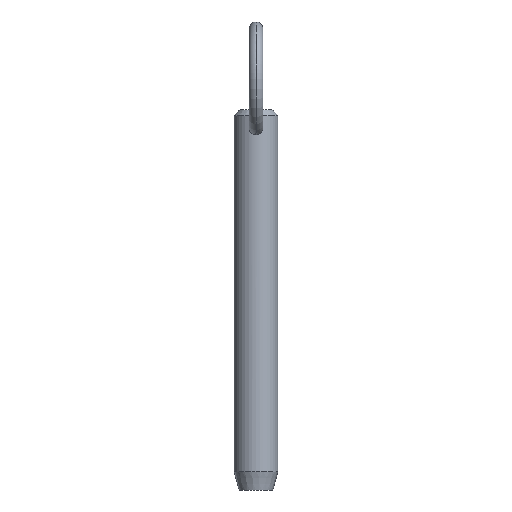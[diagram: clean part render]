
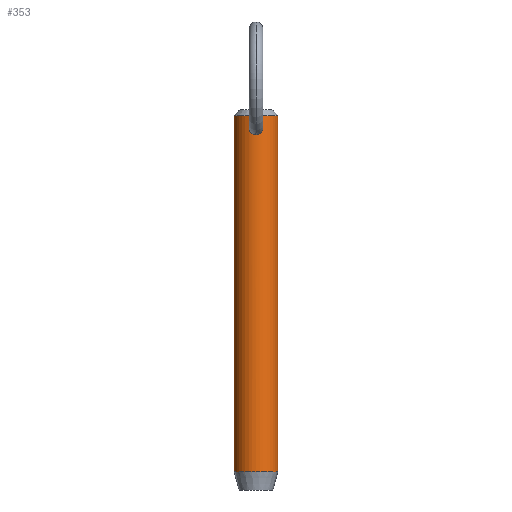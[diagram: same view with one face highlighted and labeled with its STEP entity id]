
A CAD part, front view. The second image highlights one B-rep face of the part: STEP entity #353.
In plain terms, the highlighted cylindrical face has radius 4.76 mm (diameter 9.52 mm), a partial arc.
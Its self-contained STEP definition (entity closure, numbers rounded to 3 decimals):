
#1 = CARTESIAN_POINT ( 'NONE',  ( -0.932, -4.67, 67.345 ) ) ;
#2 = CARTESIAN_POINT ( 'NONE',  ( 0.687, -4.711, 67.535 ) ) ;
#3 = VERTEX_POINT ( 'NONE', #481 ) ;
#5 = CARTESIAN_POINT ( 'NONE',  ( 1.404, -4.548, 66.553 ) ) ;
#16 = CARTESIAN_POINT ( 'NONE',  ( 4.76, 0., 63.5 ) ) ;
#20 = DIRECTION ( 'NONE',  ( 0., 0., -1. ) ) ;
#22 = VERTEX_POINT ( 'NONE', #41 ) ;
#26 = DIRECTION ( 'NONE',  ( 1., 0., 0. ) ) ;
#32 = DIRECTION ( 'NONE',  ( 0., 0., 1. ) ) ;
#35 = CARTESIAN_POINT ( 'NONE',  ( -0.416, -4.746, 64.467 ) ) ;
#40 = CARTESIAN_POINT ( 'NONE',  ( -0.703, -4.709, 64.589 ) ) ;
#41 = CARTESIAN_POINT ( 'NONE',  ( -4.76, 0., 68.55 ) ) ;
#46 = CARTESIAN_POINT ( 'NONE',  ( 0.506, -4.734, 67.637 ) ) ;
#53 = CARTESIAN_POINT ( 'NONE',  ( 0., -4.76, 67.748 ) ) ;
#54 = EDGE_LOOP ( 'NONE', ( #378, #112, #415, #406 ) ) ;
#55 = EDGE_CURVE ( 'NONE', #22, #3, #128, .T. ) ;
#59 = FACE_OUTER_BOUND ( 'NONE', #54, .T. ) ;
#60 = CARTESIAN_POINT ( 'NONE',  ( 0., 0., 63.5 ) ) ;
#65 = CARTESIAN_POINT ( 'NONE',  ( 4.76, 0., 68.55 ) ) ;
#81 = CARTESIAN_POINT ( 'NONE',  ( 0., -4.76, 64.426 ) ) ;
#85 = CARTESIAN_POINT ( 'NONE',  ( -0.21, -4.76, 64.426 ) ) ;
#89 = CARTESIAN_POINT ( 'NONE',  ( -0.103, -4.76, 67.748 ) ) ;
#92 = EDGE_LOOP ( 'NONE', ( #178, #197 ) ) ;
#95 = CARTESIAN_POINT ( 'NONE',  ( 1.45, -4.534, 65.528 ) ) ;
#96 = FACE_BOUND ( 'NONE', #92, .T. ) ;
#106 = CARTESIAN_POINT ( 'NONE',  ( -1.483, -4.524, 65.626 ) ) ;
#109 = AXIS2_PLACEMENT_3D ( 'NONE', #113, #32, #230 ) ;
#112 = ORIENTED_EDGE ( 'NONE', *, *, #485, .T. ) ;
#113 = CARTESIAN_POINT ( 'NONE',  ( 0., 0., -8.7 ) ) ;
#118 = CARTESIAN_POINT ( 'NONE',  ( -1.039, -4.646, 64.826 ) ) ;
#120 = CARTESIAN_POINT ( 'NONE',  ( 0., -4.76, 67.748 ) ) ;
#123 = CARTESIAN_POINT ( 'NONE',  ( 1.473, -4.526, 65.631 ) ) ;
#126 = CARTESIAN_POINT ( 'NONE',  ( 1.178, -4.613, 64.976 ) ) ;
#128 = LINE ( 'NONE', #484, #463 ) ;
#131 = EDGE_CURVE ( 'NONE', #373, #171, #195, .T. ) ;
#138 = CARTESIAN_POINT ( 'NONE',  ( 0.105, -4.76, 64.426 ) ) ;
#152 = CARTESIAN_POINT ( 'NONE',  ( -1.487, -4.522, 66.253 ) ) ;
#155 = CARTESIAN_POINT ( 'NONE',  ( -1.292, -4.582, 66.845 ) ) ;
#156 = CARTESIAN_POINT ( 'NONE',  ( 0.409, -4.743, 67.678 ) ) ;
#161 = CARTESIAN_POINT ( 'NONE',  ( 1.503, -4.517, 65.94 ) ) ;
#166 = CARTESIAN_POINT ( 'NONE',  ( 0.997, -4.655, 67.264 ) ) ;
#167 = CARTESIAN_POINT ( 'NONE',  ( 1.344, -4.567, 65.239 ) ) ;
#171 = VERTEX_POINT ( 'NONE', #81 ) ;
#178 = ORIENTED_EDGE ( 'NONE', *, *, #131, .T. ) ;
#184 = DIRECTION ( 'NONE',  ( -1., 0., 0. ) ) ;
#187 = DIRECTION ( 'NONE',  ( 0., 0., -1. ) ) ;
#188 = CARTESIAN_POINT ( 'NONE',  ( -0.961, -4.663, 64.757 ) ) ;
#194 = AXIS2_PLACEMENT_3D ( 'NONE', #60, #302, #184 ) ;
#195 = B_SPLINE_CURVE_WITH_KNOTS ( 'NONE', 3,
 ( #240, #319, #359, #156, #46, #2, #322, #248, #166, #450, #446, #5, #402, #290, #291, #161, #495, #123, #95, #204, #167, #363, #126, #340, #459, #221, #412, #505, #138, #464 ),
 .UNSPECIFIED., .F., .F.,
 ( 4, 2, 2, 2, 2, 2, 2, 2, 2, 2, 2, 2, 2, 2, 4 ),
 ( 0.004, 0.005, 0.005, 0.005, 0.006, 0.006, 0.007, 0.007, 0.007, 0.007, 0.008, 0.008, 0.009, 0.009, 0.009 ),
 .UNSPECIFIED. ) ;
#197 = ORIENTED_EDGE ( 'NONE', *, *, #209, .T. ) ;
#204 = CARTESIAN_POINT ( 'NONE',  ( 1.385, -4.554, 65.332 ) ) ;
#209 = EDGE_CURVE ( 'NONE', #171, #373, #424, .T. ) ;
#221 = CARTESIAN_POINT ( 'NONE',  ( 0.512, -4.733, 64.508 ) ) ;
#230 = DIRECTION ( 'NONE',  ( -1., 0., 0. ) ) ;
#234 = CIRCLE ( 'NONE', #380, 4.76 ) ;
#240 = CARTESIAN_POINT ( 'NONE',  ( 0., -4.76, 67.748 ) ) ;
#245 = CARTESIAN_POINT ( 'NONE',  ( -1.441, -4.537, 66.457 ) ) ;
#248 = CARTESIAN_POINT ( 'NONE',  ( 0.925, -4.67, 67.339 ) ) ;
#254 = VERTEX_POINT ( 'NONE', #362 ) ;
#281 = CARTESIAN_POINT ( 'NONE',  ( 0., -4.76, 64.426 ) ) ;
#290 = CARTESIAN_POINT ( 'NONE',  ( 1.478, -4.525, 66.252 ) ) ;
#291 = CARTESIAN_POINT ( 'NONE',  ( 1.492, -4.52, 66.148 ) ) ;
#302 = DIRECTION ( 'NONE',  ( 0., 0., -1. ) ) ;
#319 = CARTESIAN_POINT ( 'NONE',  ( 0.104, -4.76, 67.748 ) ) ;
#321 = CARTESIAN_POINT ( 'NONE',  ( -1.508, -4.515, 65.837 ) ) ;
#322 = CARTESIAN_POINT ( 'NONE',  ( 0.77, -4.698, 67.475 ) ) ;
#336 = EDGE_CURVE ( 'NONE', #447, #254, #370, .T. ) ;
#340 = CARTESIAN_POINT ( 'NONE',  ( 0.97, -4.662, 64.75 ) ) ;
#353 = ADVANCED_FACE ( 'NONE', ( #59, #96 ), #357, .T. ) ;
#355 = CARTESIAN_POINT ( 'NONE',  ( -0.793, -4.694, 64.639 ) ) ;
#356 = DIRECTION ( 'NONE',  ( 0., 0., -1. ) ) ;
#357 = CYLINDRICAL_SURFACE ( 'NONE', #194, 4.76 ) ;
#359 = CARTESIAN_POINT ( 'NONE',  ( 0.209, -4.756, 67.734 ) ) ;
#360 = CARTESIAN_POINT ( 'NONE',  ( -0.409, -4.743, 67.678 ) ) ;
#362 = CARTESIAN_POINT ( 'NONE',  ( 4.76, 0., -8.7 ) ) ;
#363 = CARTESIAN_POINT ( 'NONE',  ( 1.24, -4.596, 65.06 ) ) ;
#365 = VECTOR ( 'NONE', #20, 1000. ) ;
#370 = LINE ( 'NONE', #16, #365 ) ;
#373 = VERTEX_POINT ( 'NONE', #53 ) ;
#378 = ORIENTED_EDGE ( 'NONE', *, *, #336, .F. ) ;
#380 = AXIS2_PLACEMENT_3D ( 'NONE', #472, #187, #26 ) ;
#390 = CARTESIAN_POINT ( 'NONE',  ( -1.247, -4.596, 65.052 ) ) ;
#402 = CARTESIAN_POINT ( 'NONE',  ( 1.434, -4.539, 66.454 ) ) ;
#406 = ORIENTED_EDGE ( 'NONE', *, *, #458, .T. ) ;
#412 = CARTESIAN_POINT ( 'NONE',  ( 0.411, -4.743, 64.477 ) ) ;
#415 = ORIENTED_EDGE ( 'NONE', *, *, #55, .T. ) ;
#418 = CARTESIAN_POINT ( 'NONE',  ( -1.353, -4.564, 65.235 ) ) ;
#424 = B_SPLINE_CURVE_WITH_KNOTS ( 'NONE', 3,
 ( #281, #85, #35, #40, #355, #188, #118, #390, #418, #106, #321, #152, #245, #155, #439, #1, #513, #527, #360, #434, #89, #120 ),
 .UNSPECIFIED., .F., .F.,
 ( 4, 2, 2, 2, 2, 2, 2, 2, 2, 2, 4 ),
 ( 0.009, 0.01, 0.01, 0.011, 0.011, 0.012, 0.012, 0.013, 0.014, 0.014, 0.014 ),
 .UNSPECIFIED. ) ;
#432 = CIRCLE ( 'NONE', #109, 4.76 ) ;
#434 = CARTESIAN_POINT ( 'NONE',  ( -0.208, -4.757, 67.734 ) ) ;
#439 = CARTESIAN_POINT ( 'NONE',  ( -1.19, -4.611, 67.024 ) ) ;
#446 = CARTESIAN_POINT ( 'NONE',  ( 1.293, -4.582, 66.842 ) ) ;
#447 = VERTEX_POINT ( 'NONE', #65 ) ;
#450 = CARTESIAN_POINT ( 'NONE',  ( 1.19, -4.611, 67.024 ) ) ;
#458 = EDGE_CURVE ( 'NONE', #3, #254, #432, .T. ) ;
#459 = CARTESIAN_POINT ( 'NONE',  ( 0.797, -4.697, 64.629 ) ) ;
#463 = VECTOR ( 'NONE', #356, 1000. ) ;
#464 = CARTESIAN_POINT ( 'NONE',  ( 0., -4.76, 64.426 ) ) ;
#472 = CARTESIAN_POINT ( 'NONE',  ( 0., 0., 68.55 ) ) ;
#481 = CARTESIAN_POINT ( 'NONE',  ( -4.76, 0., -8.7 ) ) ;
#484 = CARTESIAN_POINT ( 'NONE',  ( -4.76, 0., 63.5 ) ) ;
#485 = EDGE_CURVE ( 'NONE', #447, #22, #234, .T. ) ;
#495 = CARTESIAN_POINT ( 'NONE',  ( 1.499, -4.518, 65.837 ) ) ;
#505 = CARTESIAN_POINT ( 'NONE',  ( 0.208, -4.757, 64.436 ) ) ;
#513 = CARTESIAN_POINT ( 'NONE',  ( -0.777, -4.7, 67.485 ) ) ;
#527 = CARTESIAN_POINT ( 'NONE',  ( -0.504, -4.734, 67.638 ) ) ;
